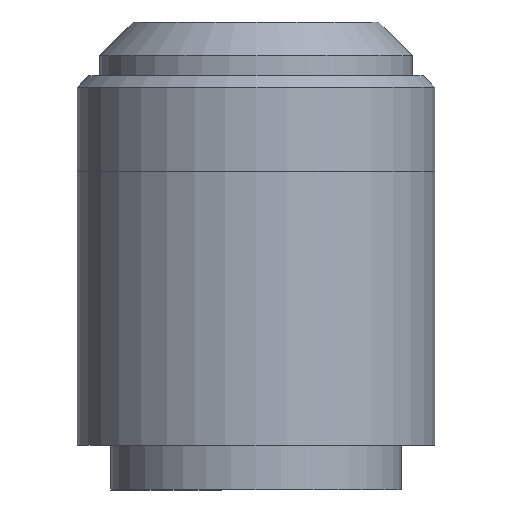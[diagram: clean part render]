
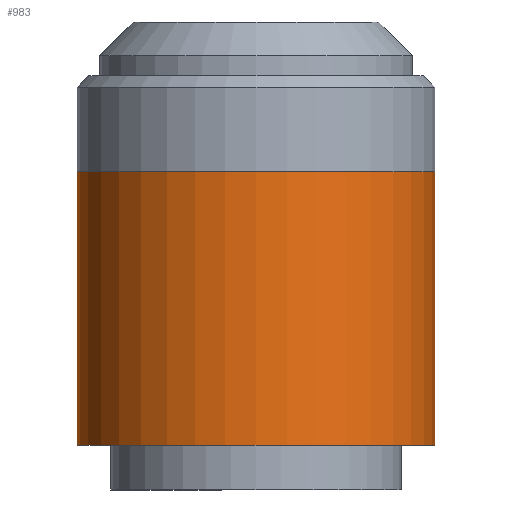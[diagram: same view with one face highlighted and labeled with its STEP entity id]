
A CAD part, front view. The second image highlights one B-rep face of the part: STEP entity #983.
In plain terms, the highlighted cylindrical face has radius 8 mm (diameter 16 mm), a full revolution.
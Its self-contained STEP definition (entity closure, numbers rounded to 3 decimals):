
#936 = PLANE('',#937);
#937 = AXIS2_PLACEMENT_3D('',#938,#939,#940);
#938 = CARTESIAN_POINT('',(0.,0.,16.68)
  );
#939 = DIRECTION('',(0.,0.,1.));
#940 = DIRECTION('',(0.,-1.,0.));
#955 = EDGE_CURVE('',#956,#956,#958,.T.);
#956 = VERTEX_POINT('',#957);
#957 = CARTESIAN_POINT('',(0.,-8.,16.68));
#958 = SURFACE_CURVE('',#959,(#964,#971),.PCURVE_S1.);
#959 = CIRCLE('',#960,8.);
#960 = AXIS2_PLACEMENT_3D('',#961,#962,#963);
#961 = CARTESIAN_POINT('',(0.,0.,16.68)
  );
#962 = DIRECTION('',(0.,0.,1.));
#963 = DIRECTION('',(0.,-1.,0.));
#964 = PCURVE('',#936,#965);
#965 = DEFINITIONAL_REPRESENTATION('',(#966),#970);
#966 = CIRCLE('',#967,8.);
#967 = AXIS2_PLACEMENT_2D('',#968,#969);
#968 = CARTESIAN_POINT('',(0.,0.));
#969 = DIRECTION('',(1.,0.));
#970 = ( GEOMETRIC_REPRESENTATION_CONTEXT(2) 
PARAMETRIC_REPRESENTATION_CONTEXT() REPRESENTATION_CONTEXT('2D SPACE',''
  ) );
#971 = PCURVE('',#972,#977);
#972 = CYLINDRICAL_SURFACE('',#973,8.);
#973 = AXIS2_PLACEMENT_3D('',#974,#975,#976);
#974 = CARTESIAN_POINT('',(0.,0.,16.68)
  );
#975 = DIRECTION('',(0.,0.,-1.));
#976 = DIRECTION('',(0.,-1.,0.));
#977 = DEFINITIONAL_REPRESENTATION('',(#978),#982);
#978 = LINE('',#979,#980);
#979 = CARTESIAN_POINT('',(-0.,0.));
#980 = VECTOR('',#981,1.);
#981 = DIRECTION('',(-1.,0.));
#982 = ( GEOMETRIC_REPRESENTATION_CONTEXT(2) 
PARAMETRIC_REPRESENTATION_CONTEXT() REPRESENTATION_CONTEXT('2D SPACE',''
  ) );
#983 = ADVANCED_FACE('',(#984),#972,.T.);
#984 = FACE_BOUND('',#985,.F.);
#985 = EDGE_LOOP('',(#986,#987,#1010,#1041));
#986 = ORIENTED_EDGE('',*,*,#955,.T.);
#987 = ORIENTED_EDGE('',*,*,#988,.T.);
#988 = EDGE_CURVE('',#956,#989,#991,.T.);
#989 = VERTEX_POINT('',#990);
#990 = CARTESIAN_POINT('',(0.,-8.,4.45));
#991 = SEAM_CURVE('',#992,(#996,#1003),.PCURVE_S1.);
#992 = LINE('',#993,#994);
#993 = CARTESIAN_POINT('',(0.,-8.,16.68));
#994 = VECTOR('',#995,1.);
#995 = DIRECTION('',(0.,0.,-1.));
#996 = PCURVE('',#972,#997);
#997 = DEFINITIONAL_REPRESENTATION('',(#998),#1002);
#998 = LINE('',#999,#1000);
#999 = CARTESIAN_POINT('',(-0.,0.));
#1000 = VECTOR('',#1001,1.);
#1001 = DIRECTION('',(-0.,1.));
#1002 = ( GEOMETRIC_REPRESENTATION_CONTEXT(2) 
PARAMETRIC_REPRESENTATION_CONTEXT() REPRESENTATION_CONTEXT('2D SPACE',''
  ) );
#1003 = PCURVE('',#972,#1004);
#1004 = DEFINITIONAL_REPRESENTATION('',(#1005),#1009);
#1005 = LINE('',#1006,#1007);
#1006 = CARTESIAN_POINT('',(-6.283,0.));
#1007 = VECTOR('',#1008,1.);
#1008 = DIRECTION('',(-0.,1.));
#1009 = ( GEOMETRIC_REPRESENTATION_CONTEXT(2) 
PARAMETRIC_REPRESENTATION_CONTEXT() REPRESENTATION_CONTEXT('2D SPACE',''
  ) );
#1010 = ORIENTED_EDGE('',*,*,#1011,.F.);
#1011 = EDGE_CURVE('',#989,#989,#1012,.T.);
#1012 = SURFACE_CURVE('',#1013,(#1018,#1025),.PCURVE_S1.);
#1013 = CIRCLE('',#1014,8.);
#1014 = AXIS2_PLACEMENT_3D('',#1015,#1016,#1017);
#1015 = CARTESIAN_POINT('',(0.,0.,4.45)
  );
#1016 = DIRECTION('',(0.,0.,1.));
#1017 = DIRECTION('',(0.,-1.,0.));
#1018 = PCURVE('',#972,#1019);
#1019 = DEFINITIONAL_REPRESENTATION('',(#1020),#1024);
#1020 = LINE('',#1021,#1022);
#1021 = CARTESIAN_POINT('',(-0.,12.23));
#1022 = VECTOR('',#1023,1.);
#1023 = DIRECTION('',(-1.,0.));
#1024 = ( GEOMETRIC_REPRESENTATION_CONTEXT(2) 
PARAMETRIC_REPRESENTATION_CONTEXT() REPRESENTATION_CONTEXT('2D SPACE',''
  ) );
#1025 = PCURVE('',#1026,#1031);
#1026 = PLANE('',#1027);
#1027 = AXIS2_PLACEMENT_3D('',#1028,#1029,#1030);
#1028 = CARTESIAN_POINT('',(0.,0.,4.45)
  );
#1029 = DIRECTION('',(0.,0.,-1.));
#1030 = DIRECTION('',(0.,1.,0.));
#1031 = DEFINITIONAL_REPRESENTATION('',(#1032),#1040);
#1032 = ( BOUNDED_CURVE() B_SPLINE_CURVE(2,(#1033,#1034,#1035,#1036,
#1037,#1038,#1039),.UNSPECIFIED.,.T.,.F.) B_SPLINE_CURVE_WITH_KNOTS((1,2
    ,2,2,2,1),(-2.094,0.,2.094,4.189,
6.283,8.378),.UNSPECIFIED.) CURVE() 
GEOMETRIC_REPRESENTATION_ITEM() RATIONAL_B_SPLINE_CURVE((1.,0.5,1.,0.5,
1.,0.5,1.)) REPRESENTATION_ITEM('') );
#1033 = CARTESIAN_POINT('',(-8.,0.));
#1034 = CARTESIAN_POINT('',(-8.,13.856));
#1035 = CARTESIAN_POINT('',(4.,6.928));
#1036 = CARTESIAN_POINT('',(16.,0.));
#1037 = CARTESIAN_POINT('',(4.,-6.928));
#1038 = CARTESIAN_POINT('',(-8.,-13.856));
#1039 = CARTESIAN_POINT('',(-8.,0.));
#1040 = ( GEOMETRIC_REPRESENTATION_CONTEXT(2) 
PARAMETRIC_REPRESENTATION_CONTEXT() REPRESENTATION_CONTEXT('2D SPACE',''
  ) );
#1041 = ORIENTED_EDGE('',*,*,#988,.F.);
